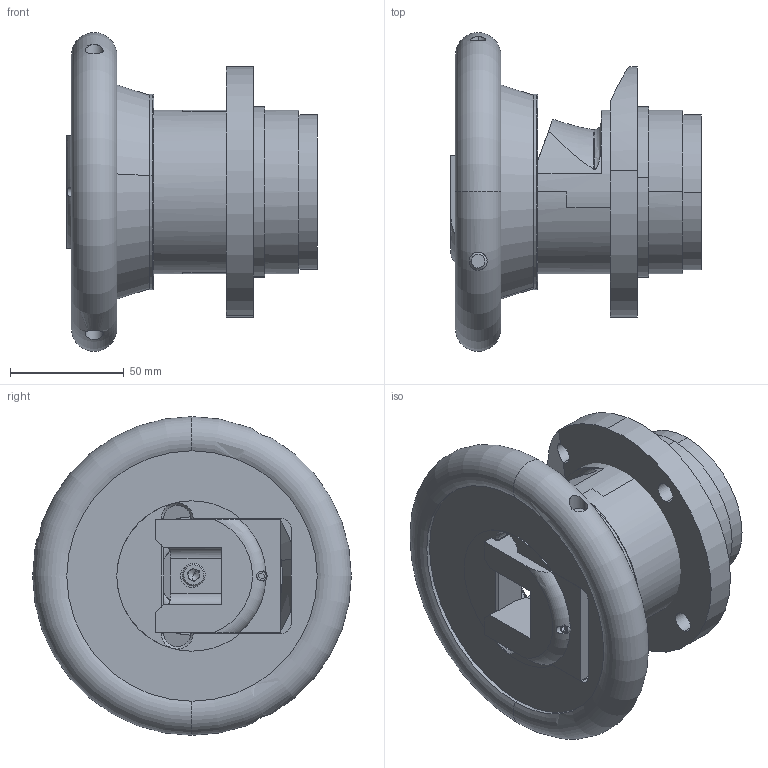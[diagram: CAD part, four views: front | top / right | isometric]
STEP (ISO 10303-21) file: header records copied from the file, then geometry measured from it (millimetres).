
FILE_DESCRIPTION((''),'2;1');
FILE_NAME('FLO_19-25_ASM','2021-02-10T11:19:20',('Eric.Chung'),(''),'CREO PARAMETRIC BY PTC INC, 2018020','CREO PARAMETRIC BY PTC INC, 2018020','');
FILE_SCHEMA(('CONFIG_CONTROL_DESIGN'));
Length unit declared in the file: millimetre
Products named in the file (18): MINW_____ANY_2; SOCKET_HEAD_CAP_SCREW_AM_-14779; SOCKET_HEAD_CAP_SCREW_AM_-14886; MIN___L_ANY_1; RADIAL_BALL_BEARING_68_SKF_SKF_; SOCKET_SET_SCREW_HALF_DOG_POINT; MIN_____M_ANY_2; MIN_M___ANY_1; MIMPIO___Y_ANY_3; BASIC_INTERNAL_RETAINING_RING_A; BASIC_EXTERNAL_RETAINING_RING_A; MIN___P_ANY_1; MIN_B___ANY_1; PIO-_MIN_ANY_ASM_1_ASM; _PIO-_MIN_1; FL_2; PIO-_MIN_ASM_4_ASM; FLO_19-25_ASM
Assembly tree (21 placements, depth 4):
  FLO_19-25_ASM
    PIO-_MIN_ASM_4_ASM
      PIO-_MIN_ANY_ASM_1_ASM
        MINW_____ANY_2
        SOCKET_HEAD_CAP_SCREW_AM_-14779  x4
        SOCKET_HEAD_CAP_SCREW_AM_-14886
        MIN___L_ANY_1
        RADIAL_BALL_BEARING_68_SKF_SKF_  x2
        SOCKET_SET_SCREW_HALF_DOG_POINT
        MIN_____M_ANY_2
        MIN_M___ANY_1
        MIMPIO___Y_ANY_3
        BASIC_INTERNAL_RETAINING_RING_A
        BASIC_EXTERNAL_RETAINING_RING_A
        MIN___P_ANY_1
        MIN_B___ANY_1
      _PIO-_MIN_1
      FL_2
Bounding box: 110 x 139.98 x 140 mm (x, y, z)
Volume: 629736 mm3; surface area: 166049 mm2
Topology: 18 solids, 18 shells, 477 faces, 1124 edges, 699 vertices
Faces by surface type: cylinder 187, plane 169, cone 63, torus 54, sphere 4
Entity records: 11808 total; most frequent: CARTESIAN_POINT 2384, DIRECTION 2130, ORIENTED_EDGE 1760, EDGE_CURVE 880, AXIS2_PLACEMENT_3D 877, VERTEX_POINT 568, CIRCLE 450, EDGE_LOOP 440
